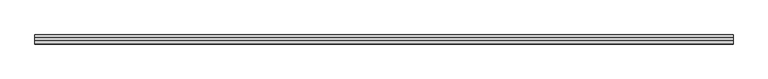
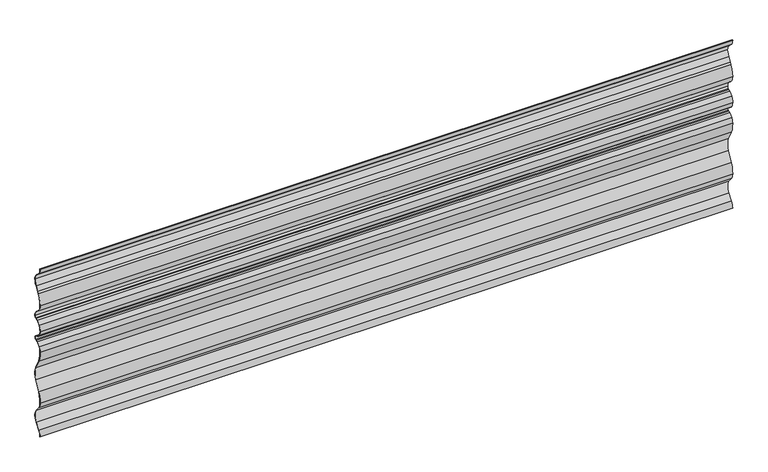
"""IFC4 building model written with IfcOpenShell, lengths in millimetres: plate geometry, Ritmica Horizontal 728 : Ritmica Horizontal 728."""

from ifc_helpers import new_model, si_unit, point, frame, frame_2d, origin, place, context, project, spatial, polyline, circle_curve, trimmed, segment, composite_curve, outline, extrude, source, transform, mapped, element, save


def plate_c23974d8(model_context):
    return source(origin(), model_context, "Body", "SweptSolid", [
        extrude(outline(composite_curve([segment(polyline([(13.0090371, 701.127971), (24.9992776, 690.0241978)]), True, "CONTINUOUS"), segment(trimmed(circle_curve(frame_2d((5.1212973, 665.0457146)), 31.9226992), [point((24.9992776, 690.0241978))], [point((37.0439944, 665.0573339))], False, "CARTESIAN"), True, "CONTINUOUS"), segment(trimmed(circle_curve(frame_2d((-10.119828, 665.2109304)), 47.1640725), [point((37.0439944, 665.0573339))], [point((28.6299834, 638.3240963))], False, "CARTESIAN"), True, "CONTINUOUS"), segment(polyline([(28.6299834, 638.3240963), (17.4991286, 620.9910926), (13.1042873, 613.5575548)]), True, "CONTINUOUS"), segment(trimmed(circle_curve(frame_2d((80.6713634, 571.1565204)), 79.769402), [point((13.1042873, 613.5575548))], [point((0.9217598, 569.3793833))], True, "CARTESIAN"), True, "CONTINUOUS"), segment(trimmed(circle_curve(frame_2d((38.3720817, 569.3930144)), 37.4503244), [point((0.9217598, 569.3793833))], [point((12.9259348, 541.9153798))], True, "CARTESIAN"), True, "CONTINUOUS"), segment(polyline([(12.9259348, 541.9153798), (24.9161752, 530.8116067)]), True, "CONTINUOUS"), segment(trimmed(circle_curve(frame_2d((5.0555108, 505.8414768)), 31.9053816), [point((24.9161752, 530.8116067))], [point((36.9608925, 505.8415328))], False, "CARTESIAN"), True, "CONTINUOUS"), segment(trimmed(circle_curve(frame_2d((28.099548, 505.8415173)), 8.8613444), [point((36.9608925, 505.8415328))], [point((31.9326734, 497.8521133))], False, "CARTESIAN"), True, "CONTINUOUS"), segment(polyline([(31.9326734, 497.8521133), (28.4687956, 496.1902275), (21.2754179, 493.3060102)]), True, "CONTINUOUS"), segment(trimmed(circle_curve(frame_2d((32.656001, 464.8830737)), 30.6166783), [point((21.2754179, 493.3060102))], [point((6.5316705, 480.8486726))], True, "CARTESIAN"), True, "CONTINUOUS"), segment(trimmed(circle_curve(frame_2d((42.0391919, 459.7699907)), 41.2927948), [point((6.5316705, 480.8486726))], [point((0.8337401, 457.0856569))], True, "CARTESIAN"), True, "CONTINUOUS"), segment(trimmed(circle_curve(frame_2d((38.2840621, 457.0992876)), 37.4503244), [point((0.8337401, 457.0856569))], [point((6.3430017, 437.5469103))], True, "CARTESIAN"), True, "CONTINUOUS"), segment(trimmed(circle_curve(frame_2d((32.4557039, 453.5315208)), 30.6166783), [point((6.3430017, 437.5469103))], [point((21.0958469, 425.1002943))], True, "CARTESIAN"), True, "CONTINUOUS"), segment(polyline([(21.0958469, 425.1002943), (28.2912902, 422.2213272), (31.7563766, 420.5619636)]), True, "CONTINUOUS"), segment(trimmed(circle_curve(frame_2d((27.9290684, 412.5697711)), 8.8613445), [point((31.7563766, 420.5619636))], [point((31.7621935, 404.580367))], False, "CARTESIAN"), True, "CONTINUOUS"), segment(polyline([(31.7621935, 404.580367), (28.298316, 402.9184814), (21.1049705, 400.034277)]), True, "CONTINUOUS"), segment(trimmed(circle_curve(frame_2d((32.4855212, 371.6113276)), 30.6166783), [point((21.1049705, 400.034277))], [point((6.3611897, 387.5769248))], True, "CARTESIAN"), True, "CONTINUOUS"), segment(trimmed(circle_curve(frame_2d((38.316475, 368.0478045)), 37.4503244), [point((6.3611897, 387.5769248))], [point((0.8661531, 368.0341733))], True, "CARTESIAN"), True, "CONTINUOUS"), segment(trimmed(circle_curve(frame_2d((94.1023106, 364.7672254)), 93.293376), [point((0.8661531, 368.0341733))], [point((10.0476548, 324.2892209))], True, "CARTESIAN"), True, "CONTINUOUS"), segment(polyline([(10.0476548, 324.2892209), (30.4443215, 283.7581494)]), True, "CONTINUOUS"), segment(trimmed(circle_curve(frame_2d((-23.1517705, 256.7867029)), 60.0), [point((30.4443215, 283.7581494))], [point((30.4639414, 229.8542794))], False, "CARTESIAN"), True, "CONTINUOUS"), segment(polyline([(30.4639414, 229.8542794), (10.0967851, 189.3083707)]), True, "CONTINUOUS"), segment(trimmed(circle_curve(frame_2d((94.180885, 148.8915653)), 93.293376), [point((10.0967851, 189.3083707))], [point((0.9471304, 145.5567461))], True, "CARTESIAN"), True, "CONTINUOUS"), segment(trimmed(circle_curve(frame_2d((38.0785482, 145.5702612)), 37.1314203), [point((0.9471304, 145.5567461))], [point((9.5589915, 121.7925982))], True, "CARTESIAN"), True, "CONTINUOUS"), segment(polyline([(9.5589915, 121.7925982), (28.2547827, 99.3683726)]), True, "CONTINUOUS"), segment(trimmed(circle_curve(frame_2d((-7.0897704, 72.9267773)), 44.1406321), [point((28.2547827, 99.3683726))], [point((28.2740218, 46.5109184))], False, "CARTESIAN"), True, "CONTINUOUS"), segment(polyline([(28.2740218, 46.5109184), (9.5945594, 23.7707747)]), True, "CONTINUOUS"), segment(trimmed(circle_curve(frame_2d((38.1314178, 0.0138791)), 37.1314203), [point((9.5945594, 23.7707747))], [point((1.0000001, 0.0))], True, "CARTESIAN"), True, "CONTINUOUS"), segment(polyline([(1.0000001, 0.0), (0.0, 0.0)]), True, "CONTINUOUS"), segment(trimmed(circle_curve(frame_2d((38.1314178, 0.0138791)), 38.1314203), [point((0.0, 0.0))], [point((8.8260227, 24.4105804))], False, "CARTESIAN"), True, "CONTINUOUS"), segment(polyline([(8.8260227, 24.4105804), (27.488531, 47.1303588)]), True, "CONTINUOUS"), segment(trimmed(circle_curve(frame_2d((-7.0897704, 72.9267773)), 43.1406321), [point((27.488531, 47.1303588))], [point((27.4697431, 98.7483605))], True, "CARTESIAN"), True, "CONTINUOUS"), segment(polyline([(27.4697431, 98.7483605), (8.7909208, 121.1522332)]), True, "CONTINUOUS"), segment(trimmed(circle_curve(frame_2d((38.0785482, 145.5702612)), 38.1314203), [point((8.7909208, 121.1522332))], [point((-0.0528589, 145.5386154))], False, "CARTESIAN"), True, "CONTINUOUS"), segment(trimmed(circle_curve(frame_2d((94.180885, 148.8915653)), 94.293376), [point((-0.0528589, 145.5386154))], [point((9.1992862, 189.7494732))], False, "CARTESIAN"), True, "CONTINUOUS"), segment(polyline([(9.1992862, 189.7494732), (29.5703462, 230.3031531)]), True, "CONTINUOUS"), segment(trimmed(circle_curve(frame_2d((-23.1517705, 256.7867029)), 59.0), [point((29.5703462, 230.3031531))], [point((29.5510533, 283.3086253))], True, "CARTESIAN"), True, "CONTINUOUS"), segment(polyline([(29.5510533, 283.3086253), (9.1504773, 323.8474651)]), True, "CONTINUOUS"), segment(trimmed(circle_curve(frame_2d((94.1023106, 364.7672254)), 94.293376), [point((9.1504773, 323.8474651))], [point((-0.1338492, 368.0515751))], False, "CARTESIAN"), True, "CONTINUOUS"), segment(trimmed(circle_curve(frame_2d((38.316475, 368.0478045)), 38.4503244), [point((-0.1338492, 368.0515751))], [point((5.5079185, 388.0983921))], False, "CARTESIAN"), True, "CONTINUOUS"), segment(trimmed(circle_curve(frame_2d((32.4855212, 371.6113276)), 31.6166783), [point((5.5079185, 388.0983921))], [point((20.7330361, 400.9625361))], False, "CARTESIAN"), True, "CONTINUOUS"), segment(polyline([(20.7330361, 400.9625361), (27.8955168, 403.834365), (31.3296266, 405.4819688)]), True, "CONTINUOUS"), segment(trimmed(circle_curve(frame_2d((27.9290684, 412.5697711)), 7.8613445), [point((31.3296266, 405.4819688))], [point((31.324466, 419.6600471))], True, "CARTESIAN"), True, "CONTINUOUS"), segment(polyline([(31.324466, 419.6600471), (27.8891578, 421.3051505), (20.7245884, 424.1717647)]), True, "CONTINUOUS"), segment(trimmed(circle_curve(frame_2d((32.4557039, 453.5315208)), 31.6166783), [point((20.7245884, 424.1717647))], [point((5.4901103, 437.024822))], False, "CARTESIAN"), True, "CONTINUOUS"), segment(trimmed(circle_curve(frame_2d((38.2840621, 457.0992876)), 38.4503244), [point((5.4901103, 437.024822))], [point((-0.1662344, 457.0529178))], False, "CARTESIAN"), True, "CONTINUOUS"), segment(trimmed(circle_curve(frame_2d((42.0391919, 459.7699907)), 42.2927948), [point((-0.1662344, 457.0529178))], [point((5.6750431, 481.3646468))], False, "CARTESIAN"), True, "CONTINUOUS"), segment(trimmed(circle_curve(frame_2d((32.656001, 464.8830737)), 31.6166782), [point((5.6750431, 481.3646468))], [point((20.9034484, 494.2342551))], False, "CARTESIAN"), True, "CONTINUOUS"), segment(polyline([(20.9034484, 494.2342551), (28.0659964, 497.1061111), (31.5001063, 498.7537151)]), True, "CONTINUOUS"), segment(trimmed(circle_curve(frame_2d((28.099548, 505.8415173)), 7.8613444), [point((31.5001063, 498.7537151))], [point((35.9608925, 505.841531))], True, "CARTESIAN"), True, "CONTINUOUS"), segment(trimmed(circle_curve(frame_2d((5.0555108, 505.8414768)), 30.9053816), [point((35.9608925, 505.841531))], [point((24.2645007, 530.052163))], True, "CARTESIAN"), True, "CONTINUOUS"), segment(polyline([(24.2645007, 530.052163), (12.2464708, 541.1816709)]), True, "CONTINUOUS"), segment(trimmed(circle_curve(frame_2d((38.3720817, 569.3930144)), 38.4503244), [point((12.2464708, 541.1816709))], [point((-0.0782346, 569.3680226))], False, "CARTESIAN"), True, "CONTINUOUS"), segment(trimmed(circle_curve(frame_2d((80.6713634, 571.1565204)), 80.769402), [point((-0.0782346, 569.3680226))], [point((12.2501965, 614.0778463))], False, "CARTESIAN"), True, "CONTINUOUS"), segment(polyline([(12.2501965, 614.0778463), (16.6477141, 621.5159109), (27.7982523, 638.8795656)]), True, "CONTINUOUS"), segment(trimmed(circle_curve(frame_2d((-10.119828, 665.2109304)), 46.1640725), [point((27.7982523, 638.8795656))], [point((36.0439937, 665.0587755))], True, "CARTESIAN"), True, "CONTINUOUS"), segment(trimmed(circle_curve(frame_2d((5.1212973, 665.0457146)), 30.9226992), [point((36.0439937, 665.0587755))], [point((24.3475061, 689.2648438))], True, "CARTESIAN"), True, "CONTINUOUS"), segment(polyline([(24.3475061, 689.2648438), (12.3295731, 700.3942621)]), True, "CONTINUOUS"), segment(trimmed(circle_curve(frame_2d((38.455184, 728.6056057)), 38.4503244), [point((12.3295731, 700.3942621))], [point((0.004862, 728.5919745))], False, "CARTESIAN"), True, "CONTINUOUS"), segment(polyline([(0.004862, 728.5919745), (1.004862, 728.5919745)]), True, "CONTINUOUS"), segment(trimmed(circle_curve(frame_2d((38.455184, 728.6056057)), 37.4503244), [point((1.004862, 728.5919745))], [point((13.0090371, 701.127971))], True, "CARTESIAN"), True, "CONTINUOUS")], self_intersect=False)), frame((-1422.0, 0.0, 0.0), z_axis=(1.0, 0.0, 0.0), x_axis=(0.0, 1.0, 0.0)), (0.0, 0.0, 1.0), 2844.0),
    ])


if __name__ == "__main__":
    model = new_model("IFC4")
    model_context = context("Model", 3, world=origin())
    ifc_project = project(units=[si_unit("LENGTHUNIT", "METRE", prefix="MILLI")], contexts=[model_context])
    site = spatial("IfcSite", under=ifc_project)
    building = spatial("IfcBuilding", under=site)
    placement = place(None, origin())
    plate_shape = plate_c23974d8(model_context)
    element("IfcPlate", 1, ObjectType="Ritmica Horizontal 728 : Ritmica Horizontal 728", at=placement, inside=building, context=model_context, shape_type="MappedRepresentation", body=[
        mapped(plate_shape, transform((0.0, 0.0, 0.0), x_axis=(1.0, 0.0, 0.0), y_axis=(0.0, 1.0, 0.0), z_axis=(0.0, 0.0, 1.0))),
    ])
    save(model, "model.ifc")
